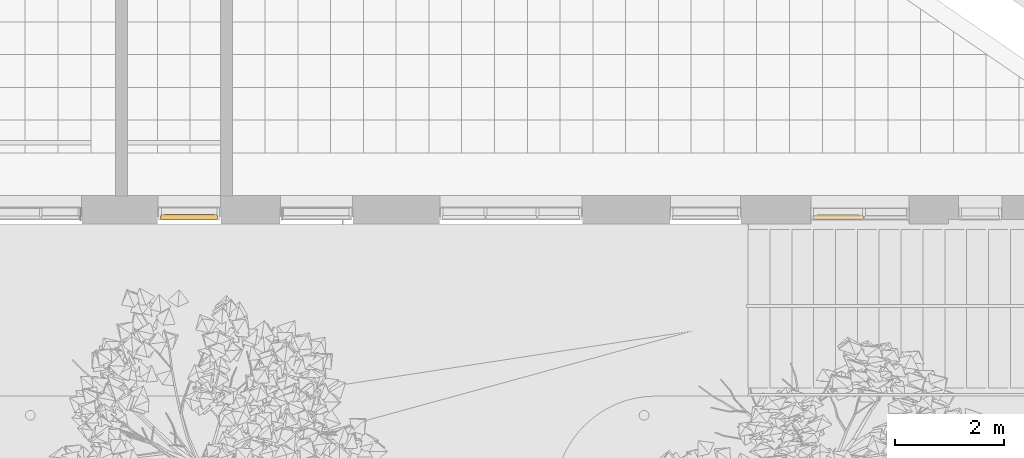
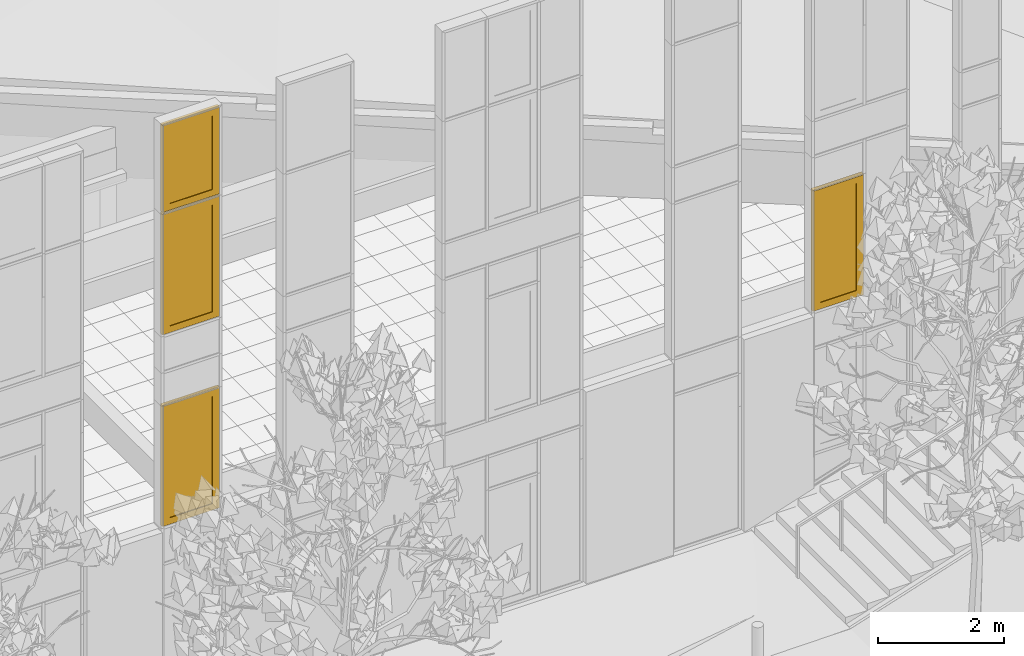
# One storey, part 166 of 246: 4 windows, 2 elements without a shape of their own.
"""IFC2X3 building model written with IfcOpenShell, lengths in millimetres."""

from ifc_helpers import new_model, entity, si_unit, converted_unit, derived_unit, money_unit, direction, frame, origin_with_axes, place, context, subcontext, project, spatial, open_shell, faceted_brep, surface_model, material, material_list, type_object, element, aggregate, save


model = new_model("IFC2X3")

# Units and contexts
model_context = context("Model", 3, precision=0.01, world=origin_with_axes(), true_north=direction((0.0, 1.0)))
body_context = subcontext(model_context, "Body", "Model", "MODEL_VIEW")
ifc_project = project(units=[si_unit("LENGTHUNIT", "METRE", prefix="MILLI"), si_unit("AREAUNIT", "SQUARE_METRE"), si_unit("VOLUMEUNIT", "CUBIC_METRE"), converted_unit("PLANEANGLEUNIT", "DEGREE", entity("IfcPlaneAngleMeasure", 0.0174532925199), si_unit("PLANEANGLEUNIT", "RADIAN"), dimensions=[0, 0, 0, 0, 0, 0, 0]), si_unit("SOLIDANGLEUNIT", "STERADIAN"), money_unit("EUR"), converted_unit("TIMEUNIT", "Year", entity("IfcTimeMeasure", 31556926.0), si_unit("TIMEUNIT", "SECOND"), dimensions=[0, 0, 1, 0, 0, 0, 0]), si_unit("MASSUNIT", "GRAM", prefix="KILO"), si_unit("THERMODYNAMICTEMPERATUREUNIT", "DEGREE_CELSIUS"), si_unit("LUMINOUSINTENSITYUNIT", "LUMEN"), si_unit("ENERGYUNIT", "JOULE", prefix="MEGA"), derived_unit("THERMALCONDUCTANCEUNIT", [(si_unit("POWERUNIT", "WATT"), 1), (si_unit("LENGTHUNIT", "METRE"), -1), (si_unit("THERMODYNAMICTEMPERATUREUNIT", "KELVIN"), -1)]), derived_unit("SPECIFICHEATCAPACITYUNIT", [(si_unit("ENERGYUNIT", "JOULE"), 1), (si_unit("MASSUNIT", "GRAM", prefix="KILO"), -1), (si_unit("THERMODYNAMICTEMPERATUREUNIT", "KELVIN"), -1)]), derived_unit("MASSDENSITYUNIT", [(si_unit("MASSUNIT", "GRAM", prefix="KILO"), 1), (si_unit("VOLUMEUNIT", "CUBIC_METRE"), -1)])], contexts=[model_context])

# Site, building, storey
site_placement = place(None, origin_with_axes())
site = spatial("IfcSite", under=ifc_project, at=site_placement, Name="L.Koidula tn 11b", CompositionType="ELEMENT")
building_placement = place(site_placement, origin_with_axes())
building = spatial("IfcBuilding", under=site, at=building_placement, Name="Rakvere Riigigümnaasium", CompositionType="ELEMENT")
storey_placement = place(building_placement, origin_with_axes())
storey = spatial("IfcBuildingStorey", under=building, at=storey_placement, Name="1.korrus 0,00", CompositionType="ELEMENT", Elevation=0.0)

# Curtain wall, windows
curtain_wall_type = type_object("IfcCurtainWallType", Name="Curtain Wall Type", PredefinedType="NOTDEFINED")
curtain_wall_1_placement = place(storey_placement, frame((84320.1847914, 5111.45334637, -1.61944635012e-05), z_axis=(0.0, 0.0, 1.0), x_axis=(1.0, 0.0, 0.0)))
curtain_wall_1 = element("IfcCurtainWall", 1, at=curtain_wall_1_placement, inside=storey, type_object=curtain_wall_type, Name="KLF-05-1C")
ifc_material_1 = material(Name="Alumiiniumprofiil (RAL 7021)")
ifc_material_2 = material(Name="Klaaspakett 3x ribikardinatega")
ifc_material_list = material_list([ifc_material_1, ifc_material_2])
window_style_1 = type_object("IfcWindowStyle", Name="1046 x 2351 x 54", ConstructionType="NOTDEFINED", OperationType="NOTDEFINED", ParameterTakesPrecedence=False, Sizeable=False)
window_1_placement = place(curtain_wall_1_placement, frame((0.0, 0.0, 4932.5), z_axis=(0.0, 0.0, 1.0), x_axis=(-1.0, 0.0, 0.0)))
window_1 = element("IfcWindow", 2, at=window_1_placement, type_object=window_style_1, material=ifc_material_list, Name="KLF-05-A-1", ObjectType="WINDOW", context=body_context, shape_type="SurfaceModel", body=[
    surface_model("IfcShellBasedSurfaceModel", [(510.000152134, 38.0, -1162.5000149), (451.000152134, 38.0, -1103.5000149), (-451.000145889, 38.0, -1103.5000149), (-510.000145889, 38.0, -1162.5000149)], [open_shell([[[0, 1, 2, 3]]])]),
    surface_model("IfcShellBasedSurfaceModel", [(-510.000145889, 38.0, -1162.5000149), (-451.000145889, 38.0, -1103.5000149), (-451.000145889, 38.0, 1103.5000149), (-510.000145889, 38.0, 1162.5000149)], [open_shell([[[0, 1, 2, 3]]])]),
    surface_model("IfcShellBasedSurfaceModel", [(510.000152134, 38.0, 1162.5000149), (-510.000145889, 38.0, 1162.5000149), (-451.000145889, 38.0, 1103.5000149), (451.000152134, 38.0, 1103.5000149)], [open_shell([[[0, 1, 2, 3]]])]),
    surface_model("IfcShellBasedSurfaceModel", [(510.000152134, 38.0, -1162.5000149), (510.000152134, 38.0, 1162.5000149), (451.000152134, 38.0, 1103.5000149), (451.000152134, 38.0, -1103.5000149)], [open_shell([[[0, 1, 2, 3]]])]),
    faceted_brep([(510.000152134, -51.0, -1162.5000149), (-510.000145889, -51.0, -1162.5000149), (-510.000145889, 38.0, -1162.5000149), (510.000152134, 38.0, -1162.5000149), (451.000152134, -51.0, -1103.5000149), (-451.000145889, -51.0, -1103.5000149), (-451.000145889, 38.0, -1103.5000149), (451.000152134, 38.0, -1103.5000149)], [[[0, 1, 2, 3]], [[0, 4, 5, 1]], [[1, 5, 6, 2]], [[3, 2, 6, 7]], [[4, 0, 3, 7]], [[5, 4, 7, 6]]]),
    faceted_brep([(-510.000145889, -51.0, -1162.5000149), (-510.000145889, -51.0, 1162.5000149), (-510.000145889, 38.0, 1162.5000149), (-510.000145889, 38.0, -1162.5000149), (-451.000145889, -51.0, -1103.5000149), (-451.000145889, -51.0, 1103.5000149), (-451.000145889, 38.0, 1103.5000149), (-451.000145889, 38.0, -1103.5000149)], [[[0, 1, 2, 3]], [[0, 4, 5, 1]], [[1, 5, 6, 2]], [[3, 2, 6, 7]], [[4, 0, 3, 7]], [[5, 4, 7, 6]]]),
    faceted_brep([(510.000152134, -51.0, 1162.5000149), (451.000152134, -51.0, 1103.5000149), (451.000152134, 38.0, 1103.5000149), (510.000152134, 38.0, 1162.5000149), (-510.000145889, -51.0, 1162.5000149), (-451.000145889, -51.0, 1103.5000149), (-451.000145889, 38.0, 1103.5000149), (-510.000145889, 38.0, 1162.5000149)], [[[0, 1, 2, 3]], [[0, 4, 5, 1]], [[1, 5, 6, 2]], [[3, 2, 6, 7]], [[4, 0, 3, 7]], [[5, 4, 7, 6]]]),
    faceted_brep([(510.000152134, -51.0, -1162.5000149), (451.000152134, -51.0, -1103.5000149), (451.000152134, 38.0, -1103.5000149), (510.000152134, 38.0, -1162.5000149), (510.000152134, -51.0, 1162.5000149), (451.000152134, -51.0, 1103.5000149), (451.000152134, 38.0, 1103.5000149), (510.000152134, 38.0, 1162.5000149)], [[[0, 1, 2, 3]], [[0, 4, 5, 1]], [[1, 5, 6, 2]], [[3, 2, 6, 7]], [[4, 0, 3, 7]], [[5, 4, 7, 6]]]),
    faceted_brep([(523.000174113, -27.0, -1175.50000149), (-523.000167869, -27.0, -1175.50000149), (-523.000167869, 27.0, -1175.50000149), (523.000174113, 27.0, -1175.50000149), (510.000152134, -27.0, -1162.5000149), (-510.000145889, -27.0, -1162.5000149), (-510.000145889, 27.0, -1162.5000149), (510.000152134, 27.0, -1162.5000149)], [[[0, 1, 2, 3]], [[0, 4, 5, 1]], [[1, 5, 6, 2]], [[3, 2, 6, 7]], [[4, 0, 3, 7]], [[5, 4, 7, 6]]]),
    faceted_brep([(-523.000167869, -27.0, -1175.50000149), (-523.000167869, -27.0, 1175.50000149), (-523.000167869, 27.0, 1175.50000149), (-523.000167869, 27.0, -1175.50000149), (-510.000145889, -27.0, -1162.5000149), (-510.000145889, -27.0, 1162.5000149), (-510.000145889, 27.0, 1162.5000149), (-510.000145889, 27.0, -1162.5000149)], [[[0, 1, 2, 3]], [[0, 4, 5, 1]], [[1, 5, 6, 2]], [[3, 2, 6, 7]], [[4, 0, 3, 7]], [[5, 4, 7, 6]]]),
    faceted_brep([(-523.000167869, -27.0, 1175.50000149), (523.000174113, -27.0, 1175.50000149), (523.000174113, 27.0, 1175.50000149), (-523.000167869, 27.0, 1175.50000149), (-510.000145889, -27.0, 1162.5000149), (510.000152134, -27.0, 1162.5000149), (510.000152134, 27.0, 1162.5000149), (-510.000145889, 27.0, 1162.5000149)], [[[0, 1, 2, 3]], [[0, 4, 5, 1]], [[1, 5, 6, 2]], [[3, 2, 6, 7]], [[4, 0, 3, 7]], [[5, 4, 7, 6]]]),
    faceted_brep([(523.000174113, -27.0, 1175.50000149), (523.000174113, -27.0, -1175.50000149), (523.000174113, 27.0, -1175.50000149), (523.000174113, 27.0, 1175.50000149), (510.000152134, -27.0, 1162.5000149), (510.000152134, -27.0, -1162.5000149), (510.000152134, 27.0, -1162.5000149), (510.000152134, 27.0, 1162.5000149)], [[[0, 1, 2, 3]], [[0, 4, 5, 1]], [[1, 5, 6, 2]], [[3, 2, 6, 7]], [[4, 0, 3, 7]], [[5, 4, 7, 6]]]),
    faceted_brep([(388.000152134, 38.0, -1040.5000149), (388.000152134, -62.0, -1040.5000149), (388.000152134, -62.0, 1040.5000149), (388.000152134, 38.0, 1040.5000149), (451.000152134, 38.0, -1103.5000149), (451.000152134, -62.0, -1103.5000149), (451.000152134, -62.0, 1103.5000149), (451.000152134, 38.0, 1103.5000149)], [[[0, 1, 2, 3]], [[4, 5, 1, 0]], [[1, 5, 6, 2]], [[3, 2, 6, 7]], [[0, 3, 7, 4]], [[7, 6, 5, 4]]]),
    faceted_brep([(-451.000145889, 38.0, -1103.5000149), (-451.000145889, -62.0, -1103.5000149), (-451.000145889, -62.0, 1103.5000149), (-451.000145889, 38.0, 1103.5000149), (-388.000145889, 38.0, -1040.5000149), (-388.000145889, -62.0, -1040.5000149), (-388.000145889, -62.0, 1040.5000149), (-388.000145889, 38.0, 1040.5000149)], [[[0, 1, 2, 3]], [[4, 5, 1, 0]], [[1, 5, 6, 2]], [[3, 2, 6, 7]], [[0, 3, 7, 4]], [[7, 6, 5, 4]]]),
    faceted_brep([(-451.000145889, 38.0, -1103.5000149), (-451.000145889, -62.0, -1103.5000149), (-388.000145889, -62.0, -1040.5000149), (-388.000145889, 38.0, -1040.5000149), (451.000152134, 38.0, -1103.5000149), (451.000152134, -62.0, -1103.5000149), (388.000152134, -62.0, -1040.5000149), (388.000152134, 38.0, -1040.5000149)], [[[0, 1, 2, 3]], [[4, 5, 1, 0]], [[1, 5, 6, 2]], [[3, 2, 6, 7]], [[0, 3, 7, 4]], [[7, 6, 5, 4]]]),
    faceted_brep([(451.000152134, 38.0, 1103.5000149), (451.000152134, -62.0, 1103.5000149), (388.000152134, -62.0, 1040.5000149), (388.000152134, 38.0, 1040.5000149), (-451.000145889, 38.0, 1103.5000149), (-451.000145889, -62.0, 1103.5000149), (-388.000145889, -62.0, 1040.5000149), (-388.000145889, 38.0, 1040.5000149)], [[[0, 1, 2, 3]], [[4, 5, 1, 0]], [[1, 5, 6, 2]], [[3, 2, 6, 7]], [[0, 3, 7, 4]], [[7, 6, 5, 4]]]),
    faceted_brep([(388.000152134, 27.0, -1040.5000149), (388.000152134, -38.0, -1040.5000149), (-388.000145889, -38.0, -1040.5000149), (-388.000145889, 27.0, -1040.5000149), (388.000152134, 27.0, 1040.5000149), (388.000152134, -38.0, 1040.5000149), (-388.000145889, -38.0, 1040.5000149), (-388.000145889, 27.0, 1040.5000149)], [[[0, 1, 2, 3]], [[4, 5, 1, 0]], [[1, 5, 6, 2]], [[3, 2, 6, 7]], [[0, 3, 7, 4]], [[7, 6, 5, 4]]]),
])
window_2_placement = place(curtain_wall_1_placement, frame((2.09960688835e-05, 0.0, 8652.5), z_axis=(0.0, 0.0, 1.0), x_axis=(-1.0, 0.0, 0.0)))
window_2 = element("IfcWindow", 3, at=window_2_placement, type_object=window_style_1, material=ifc_material_list, Name="KLF-05-A-1", ObjectType="WINDOW", context=body_context, shape_type="SurfaceModel", body=[
    surface_model("IfcShellBasedSurfaceModel", [(510.00017313, 38.0, -1162.5000149), (451.00017313, 38.0, -1103.5000149), (-451.000231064, 38.0, -1103.5000149), (-510.000231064, 38.0, -1162.5000149)], [open_shell([[[0, 1, 2, 3]]])]),
    surface_model("IfcShellBasedSurfaceModel", [(-510.000231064, 38.0, -1162.5000149), (-451.000231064, 38.0, -1103.5000149), (-451.000231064, 38.0, 1103.5000149), (-510.000231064, 38.0, 1162.5000149)], [open_shell([[[0, 1, 2, 3]]])]),
    surface_model("IfcShellBasedSurfaceModel", [(510.00017313, 38.0, 1162.5000149), (-510.000231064, 38.0, 1162.5000149), (-451.000231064, 38.0, 1103.5000149), (451.00017313, 38.0, 1103.5000149)], [open_shell([[[0, 1, 2, 3]]])]),
    surface_model("IfcShellBasedSurfaceModel", [(510.00017313, 38.0, -1162.5000149), (510.00017313, 38.0, 1162.5000149), (451.00017313, 38.0, 1103.5000149), (451.00017313, 38.0, -1103.5000149)], [open_shell([[[0, 1, 2, 3]]])]),
    faceted_brep([(510.00017313, -51.0, -1162.5000149), (-510.000231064, -51.0, -1162.5000149), (-510.000231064, 38.0, -1162.5000149), (510.00017313, 38.0, -1162.5000149), (451.00017313, -51.0, -1103.5000149), (-451.000231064, -51.0, -1103.5000149), (-451.000231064, 38.0, -1103.5000149), (451.00017313, 38.0, -1103.5000149)], [[[0, 1, 2, 3]], [[0, 4, 5, 1]], [[1, 5, 6, 2]], [[3, 2, 6, 7]], [[4, 0, 3, 7]], [[5, 4, 7, 6]]]),
    faceted_brep([(-510.000231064, -51.0, -1162.5000149), (-510.000231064, -51.0, 1162.5000149), (-510.000231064, 38.0, 1162.5000149), (-510.000231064, 38.0, -1162.5000149), (-451.000231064, -51.0, -1103.5000149), (-451.000231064, -51.0, 1103.5000149), (-451.000231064, 38.0, 1103.5000149), (-451.000231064, 38.0, -1103.5000149)], [[[0, 1, 2, 3]], [[0, 4, 5, 1]], [[1, 5, 6, 2]], [[3, 2, 6, 7]], [[4, 0, 3, 7]], [[5, 4, 7, 6]]]),
    faceted_brep([(510.00017313, -51.0, 1162.5000149), (451.00017313, -51.0, 1103.5000149), (451.00017313, 38.0, 1103.5000149), (510.00017313, 38.0, 1162.5000149), (-510.000231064, -51.0, 1162.5000149), (-451.000231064, -51.0, 1103.5000149), (-451.000231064, 38.0, 1103.5000149), (-510.000231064, 38.0, 1162.5000149)], [[[0, 1, 2, 3]], [[0, 4, 5, 1]], [[1, 5, 6, 2]], [[3, 2, 6, 7]], [[4, 0, 3, 7]], [[5, 4, 7, 6]]]),
    faceted_brep([(510.00017313, -51.0, -1162.5000149), (451.00017313, -51.0, -1103.5000149), (451.00017313, 38.0, -1103.5000149), (510.00017313, 38.0, -1162.5000149), (510.00017313, -51.0, 1162.5000149), (451.00017313, -51.0, 1103.5000149), (451.00017313, 38.0, 1103.5000149), (510.00017313, 38.0, 1162.5000149)], [[[0, 1, 2, 3]], [[0, 4, 5, 1]], [[1, 5, 6, 2]], [[3, 2, 6, 7]], [[4, 0, 3, 7]], [[5, 4, 7, 6]]]),
    faceted_brep([(523.000195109, -27.0, -1175.50000149), (-523.000217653, -27.0, -1175.50000149), (-523.000217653, 27.0, -1175.50000149), (523.000195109, 27.0, -1175.50000149), (510.00017313, -27.0, -1162.5000149), (-510.000231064, -27.0, -1162.5000149), (-510.000231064, 27.0, -1162.5000149), (510.00017313, 27.0, -1162.5000149)], [[[0, 1, 2, 3]], [[0, 4, 5, 1]], [[1, 5, 6, 2]], [[3, 2, 6, 7]], [[4, 0, 3, 7]], [[5, 4, 7, 6]]]),
    faceted_brep([(-523.000217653, -27.0, -1175.50000149), (-523.000217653, -27.0, 1175.50000149), (-523.000217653, 27.0, 1175.50000149), (-523.000217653, 27.0, -1175.50000149), (-510.000231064, -27.0, -1162.5000149), (-510.000231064, -27.0, 1162.5000149), (-510.000231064, 27.0, 1162.5000149), (-510.000231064, 27.0, -1162.5000149)], [[[0, 1, 2, 3]], [[0, 4, 5, 1]], [[1, 5, 6, 2]], [[3, 2, 6, 7]], [[4, 0, 3, 7]], [[5, 4, 7, 6]]]),
    faceted_brep([(-523.000217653, -27.0, 1175.50000149), (523.000195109, -27.0, 1175.50000149), (523.000195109, 27.0, 1175.50000149), (-523.000217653, 27.0, 1175.50000149), (-510.000231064, -27.0, 1162.5000149), (510.00017313, -27.0, 1162.5000149), (510.00017313, 27.0, 1162.5000149), (-510.000231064, 27.0, 1162.5000149)], [[[0, 1, 2, 3]], [[0, 4, 5, 1]], [[1, 5, 6, 2]], [[3, 2, 6, 7]], [[4, 0, 3, 7]], [[5, 4, 7, 6]]]),
    faceted_brep([(523.000195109, -27.0, 1175.50000149), (523.000195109, -27.0, -1175.50000149), (523.000195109, 27.0, -1175.50000149), (523.000195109, 27.0, 1175.50000149), (510.00017313, -27.0, 1162.5000149), (510.00017313, -27.0, -1162.5000149), (510.00017313, 27.0, -1162.5000149), (510.00017313, 27.0, 1162.5000149)], [[[0, 1, 2, 3]], [[0, 4, 5, 1]], [[1, 5, 6, 2]], [[3, 2, 6, 7]], [[4, 0, 3, 7]], [[5, 4, 7, 6]]]),
    faceted_brep([(388.00017313, 38.0, -1040.5000149), (388.00017313, -62.0, -1040.5000149), (388.00017313, -62.0, 1040.5000149), (388.00017313, 38.0, 1040.5000149), (451.00017313, 38.0, -1103.5000149), (451.00017313, -62.0, -1103.5000149), (451.00017313, -62.0, 1103.5000149), (451.00017313, 38.0, 1103.5000149)], [[[0, 1, 2, 3]], [[4, 5, 1, 0]], [[1, 5, 6, 2]], [[3, 2, 6, 7]], [[0, 3, 7, 4]], [[7, 6, 5, 4]]]),
    faceted_brep([(-451.000231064, 38.0, -1103.5000149), (-451.000231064, -62.0, -1103.5000149), (-451.000231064, -62.0, 1103.5000149), (-451.000231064, 38.0, 1103.5000149), (-388.000231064, 38.0, -1040.5000149), (-388.000231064, -62.0, -1040.5000149), (-388.000231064, -62.0, 1040.5000149), (-388.000231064, 38.0, 1040.5000149)], [[[0, 1, 2, 3]], [[4, 5, 1, 0]], [[1, 5, 6, 2]], [[3, 2, 6, 7]], [[0, 3, 7, 4]], [[7, 6, 5, 4]]]),
    faceted_brep([(-451.000231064, 38.0, -1103.5000149), (-451.000231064, -62.0, -1103.5000149), (-388.000231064, -62.0, -1040.5000149), (-388.000231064, 38.0, -1040.5000149), (451.00017313, 38.0, -1103.5000149), (451.00017313, -62.0, -1103.5000149), (388.00017313, -62.0, -1040.5000149), (388.00017313, 38.0, -1040.5000149)], [[[0, 1, 2, 3]], [[4, 5, 1, 0]], [[1, 5, 6, 2]], [[3, 2, 6, 7]], [[0, 3, 7, 4]], [[7, 6, 5, 4]]]),
    faceted_brep([(451.00017313, 38.0, 1103.5000149), (451.00017313, -62.0, 1103.5000149), (388.00017313, -62.0, 1040.5000149), (388.00017313, 38.0, 1040.5000149), (-451.000231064, 38.0, 1103.5000149), (-451.000231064, -62.0, 1103.5000149), (-388.000231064, -62.0, 1040.5000149), (-388.000231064, 38.0, 1040.5000149)], [[[0, 1, 2, 3]], [[4, 5, 1, 0]], [[1, 5, 6, 2]], [[3, 2, 6, 7]], [[0, 3, 7, 4]], [[7, 6, 5, 4]]]),
    faceted_brep([(388.00017313, 27.0, -1040.5000149), (388.00017313, -38.0, -1040.5000149), (-388.000231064, -38.0, -1040.5000149), (-388.000231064, 27.0, -1040.5000149), (388.00017313, 27.0, 1040.5000149), (388.00017313, -38.0, 1040.5000149), (-388.000231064, -38.0, 1040.5000149), (-388.000231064, 27.0, 1040.5000149)], [[[0, 1, 2, 3]], [[4, 5, 1, 0]], [[1, 5, 6, 2]], [[3, 2, 6, 7]], [[0, 3, 7, 4]], [[7, 6, 5, 4]]]),
])

# Curtain wall, window
curtain_wall_2_placement = place(storey_placement, frame((96030.936158, 5111.45334637, 394.620798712), z_axis=(0.0, 0.0, 1.0), x_axis=(1.0, 0.0, 0.0)))
curtain_wall_2 = element("IfcCurtainWall", 4, at=curtain_wall_2_placement, inside=storey, type_object=curtain_wall_type, Name="KLF-05-2C")
window_style_2 = type_object("IfcWindowStyle", Name="926 x 2351 x 65", ConstructionType="NOTDEFINED", OperationType="NOTDEFINED", ParameterTakesPrecedence=False, Sizeable=False)
window_3_placement = place(curtain_wall_2_placement, frame((0.0, 0.0, 4537.87919319), z_axis=(0.0, 0.0, 1.0), x_axis=(-1.0, 0.0, 0.0)))
window_3 = element("IfcWindow", 5, at=window_3_placement, type_object=window_style_2, material=ifc_material_list, Name="KLF-05-A-2", ObjectType="WINDOW", context=body_context, shape_type="SurfaceModel", body=[
    surface_model("IfcShellBasedSurfaceModel", [(280.936033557, 43.5, -1162.5000149), (221.936033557, 43.5, -1103.5000149), (-560.063960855, 43.5, -1103.5000149), (-619.063960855, 43.5, -1162.5000149)], [open_shell([[[0, 1, 2, 3]]])]),
    surface_model("IfcShellBasedSurfaceModel", [(-619.063960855, 43.5, -1162.5000149), (-560.063960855, 43.5, -1103.5000149), (-560.063960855, 43.5, 1103.5000149), (-619.063960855, 43.5, 1162.5000149)], [open_shell([[[0, 1, 2, 3]]])]),
    surface_model("IfcShellBasedSurfaceModel", [(280.936033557, 43.5, 1162.5000149), (-619.063960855, 43.5, 1162.5000149), (-560.063960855, 43.5, 1103.5000149), (221.936033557, 43.5, 1103.5000149)], [open_shell([[[0, 1, 2, 3]]])]),
    surface_model("IfcShellBasedSurfaceModel", [(280.936033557, 43.5, -1162.5000149), (280.936033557, 43.5, 1162.5000149), (221.936033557, 43.5, 1103.5000149), (221.936033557, 43.5, -1103.5000149)], [open_shell([[[0, 1, 2, 3]]])]),
    faceted_brep([(280.936033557, -45.5, -1162.5000149), (-619.063960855, -45.5, -1162.5000149), (-619.063960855, 43.5, -1162.5000149), (280.936033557, 43.5, -1162.5000149), (221.936033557, -45.5, -1103.5000149), (-560.063960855, -45.5, -1103.5000149), (-560.063960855, 43.5, -1103.5000149), (221.936033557, 43.5, -1103.5000149)], [[[0, 1, 2, 3]], [[0, 4, 5, 1]], [[1, 5, 6, 2]], [[3, 2, 6, 7]], [[4, 0, 3, 7]], [[5, 4, 7, 6]]]),
    faceted_brep([(-619.063960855, -45.5, -1162.5000149), (-619.063960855, -45.5, 1162.5000149), (-619.063960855, 43.5, 1162.5000149), (-619.063960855, 43.5, -1162.5000149), (-560.063960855, -45.5, -1103.5000149), (-560.063960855, -45.5, 1103.5000149), (-560.063960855, 43.5, 1103.5000149), (-560.063960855, 43.5, -1103.5000149)], [[[0, 1, 2, 3]], [[0, 4, 5, 1]], [[1, 5, 6, 2]], [[3, 2, 6, 7]], [[4, 0, 3, 7]], [[5, 4, 7, 6]]]),
    faceted_brep([(280.936033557, -45.5, 1162.5000149), (221.936033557, -45.5, 1103.5000149), (221.936033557, 43.5, 1103.5000149), (280.936033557, 43.5, 1162.5000149), (-619.063960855, -45.5, 1162.5000149), (-560.063960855, -45.5, 1103.5000149), (-560.063960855, 43.5, 1103.5000149), (-619.063960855, 43.5, 1162.5000149)], [[[0, 1, 2, 3]], [[0, 4, 5, 1]], [[1, 5, 6, 2]], [[3, 2, 6, 7]], [[4, 0, 3, 7]], [[5, 4, 7, 6]]]),
    faceted_brep([(280.936033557, -45.5, -1162.5000149), (221.936033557, -45.5, -1103.5000149), (221.936033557, 43.5, -1103.5000149), (280.936033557, 43.5, -1162.5000149), (280.936033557, -45.5, 1162.5000149), (221.936033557, -45.5, 1103.5000149), (221.936033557, 43.5, 1103.5000149), (280.936033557, 43.5, 1162.5000149)], [[[0, 1, 2, 3]], [[0, 4, 5, 1]], [[1, 5, 6, 2]], [[3, 2, 6, 7]], [[4, 0, 3, 7]], [[5, 4, 7, 6]]]),
    faceted_brep([(293.936055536, -32.5, -1175.50000149), (-632.063947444, -32.5, -1175.50000149), (-632.063947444, 32.5, -1175.50000149), (293.936055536, 32.5, -1175.50000149), (280.936033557, -32.5, -1162.5000149), (-619.063960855, -32.5, -1162.5000149), (-619.063960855, 32.5, -1162.5000149), (280.936033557, 32.5, -1162.5000149)], [[[0, 1, 2, 3]], [[0, 4, 5, 1]], [[1, 5, 6, 2]], [[3, 2, 6, 7]], [[4, 0, 3, 7]], [[5, 4, 7, 6]]]),
    faceted_brep([(-632.063947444, -32.5, -1175.50000149), (-632.063947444, -32.5, 1175.50000149), (-632.063947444, 32.5, 1175.50000149), (-632.063947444, 32.5, -1175.50000149), (-619.063960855, -32.5, -1162.5000149), (-619.063960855, -32.5, 1162.5000149), (-619.063960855, 32.5, 1162.5000149), (-619.063960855, 32.5, -1162.5000149)], [[[0, 1, 2, 3]], [[0, 4, 5, 1]], [[1, 5, 6, 2]], [[3, 2, 6, 7]], [[4, 0, 3, 7]], [[5, 4, 7, 6]]]),
    faceted_brep([(-632.063947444, -32.5, 1175.50000149), (293.936055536, -32.5, 1175.50000149), (293.936055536, 32.5, 1175.50000149), (-632.063947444, 32.5, 1175.50000149), (-619.063960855, -32.5, 1162.5000149), (280.936033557, -32.5, 1162.5000149), (280.936033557, 32.5, 1162.5000149), (-619.063960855, 32.5, 1162.5000149)], [[[0, 1, 2, 3]], [[0, 4, 5, 1]], [[1, 5, 6, 2]], [[3, 2, 6, 7]], [[4, 0, 3, 7]], [[5, 4, 7, 6]]]),
    faceted_brep([(293.936055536, -32.5, 1175.50000149), (293.936055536, -32.5, -1175.50000149), (293.936055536, 32.5, -1175.50000149), (293.936055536, 32.5, 1175.50000149), (280.936033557, -32.5, 1162.5000149), (280.936033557, -32.5, -1162.5000149), (280.936033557, 32.5, -1162.5000149), (280.936033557, 32.5, 1162.5000149)], [[[0, 1, 2, 3]], [[0, 4, 5, 1]], [[1, 5, 6, 2]], [[3, 2, 6, 7]], [[4, 0, 3, 7]], [[5, 4, 7, 6]]]),
    faceted_brep([(158.936033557, 43.5, -1040.5000149), (158.936033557, -56.5, -1040.5000149), (158.936033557, -56.5, 1040.5000149), (158.936033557, 43.5, 1040.5000149), (221.936033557, 43.5, -1103.5000149), (221.936033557, -56.5, -1103.5000149), (221.936033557, -56.5, 1103.5000149), (221.936033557, 43.5, 1103.5000149)], [[[0, 1, 2, 3]], [[4, 5, 1, 0]], [[1, 5, 6, 2]], [[3, 2, 6, 7]], [[0, 3, 7, 4]], [[7, 6, 5, 4]]]),
    faceted_brep([(-560.063960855, 43.5, -1103.5000149), (-560.063960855, -56.5, -1103.5000149), (-560.063960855, -56.5, 1103.5000149), (-560.063960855, 43.5, 1103.5000149), (-497.063960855, 43.5, -1040.5000149), (-497.063960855, -56.5, -1040.5000149), (-497.063960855, -56.5, 1040.5000149), (-497.063960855, 43.5, 1040.5000149)], [[[0, 1, 2, 3]], [[4, 5, 1, 0]], [[1, 5, 6, 2]], [[3, 2, 6, 7]], [[0, 3, 7, 4]], [[7, 6, 5, 4]]]),
    faceted_brep([(-560.063960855, 43.5, -1103.5000149), (-560.063960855, -56.5, -1103.5000149), (-497.063960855, -56.5, -1040.5000149), (-497.063960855, 43.5, -1040.5000149), (221.936033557, 43.5, -1103.5000149), (221.936033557, -56.5, -1103.5000149), (158.936033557, -56.5, -1040.5000149), (158.936033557, 43.5, -1040.5000149)], [[[0, 1, 2, 3]], [[4, 5, 1, 0]], [[1, 5, 6, 2]], [[3, 2, 6, 7]], [[0, 3, 7, 4]], [[7, 6, 5, 4]]]),
    faceted_brep([(221.936033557, 43.5, 1103.5000149), (221.936033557, -56.5, 1103.5000149), (158.936033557, -56.5, 1040.5000149), (158.936033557, 43.5, 1040.5000149), (-560.063960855, 43.5, 1103.5000149), (-560.063960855, -56.5, 1103.5000149), (-497.063960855, -56.5, 1040.5000149), (-497.063960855, 43.5, 1040.5000149)], [[[0, 1, 2, 3]], [[4, 5, 1, 0]], [[1, 5, 6, 2]], [[3, 2, 6, 7]], [[0, 3, 7, 4]], [[7, 6, 5, 4]]]),
    faceted_brep([(158.936033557, 32.5, -1040.5000149), (158.936033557, -32.5, -1040.5000149), (-497.063960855, -32.5, -1040.5000149), (-497.063960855, 32.5, -1040.5000149), (158.936033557, 32.5, 1040.5000149), (158.936033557, -32.5, 1040.5000149), (-497.063960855, -32.5, 1040.5000149), (-497.063960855, 32.5, 1040.5000149)], [[[0, 1, 2, 3]], [[4, 5, 1, 0]], [[1, 5, 6, 2]], [[3, 2, 6, 7]], [[0, 3, 7, 4]], [[7, 6, 5, 4]]]),
])
aggregate(curtain_wall_2, [window_3])

# Window
window_style_3 = type_object("IfcWindowStyle", Name="1046 x 1701 x 54", ConstructionType="NOTDEFINED", OperationType="NOTDEFINED", ParameterTakesPrecedence=False, Sizeable=False)
window_4_placement = place(curtain_wall_1_placement, frame((2.07585628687e-05, 0.0, 10714.999916), z_axis=(0.0, 0.0, 1.0), x_axis=(-1.0, 0.0, 0.0)))
window_4 = element("IfcWindow", 6, at=window_4_placement, type_object=window_style_3, material=ifc_material_list, Name="KLF-05-A-3", ObjectType="WINDOW", context=body_context, shape_type="SurfaceModel", body=[
    surface_model("IfcShellBasedSurfaceModel", [(510.000275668, 38.0, -849.999922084), (451.000275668, 38.0, -790.999922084), (-451.000214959, 38.0, -790.999922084), (-510.000214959, 38.0, -849.999922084)], [open_shell([[[0, 1, 2, 3]]])]),
    surface_model("IfcShellBasedSurfaceModel", [(-510.000214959, 38.0, -849.999922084), (-451.000214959, 38.0, -790.999922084), (-451.000214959, 38.0, 765.99992821), (-510.000214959, 38.0, 824.99992821)], [open_shell([[[0, 1, 2, 3]]])]),
    surface_model("IfcShellBasedSurfaceModel", [(510.000275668, 38.0, 824.99992821), (-510.000214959, 38.0, 824.99992821), (-451.000214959, 38.0, 765.99992821), (451.000275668, 38.0, 765.99992821)], [open_shell([[[0, 1, 2, 3]]])]),
    surface_model("IfcShellBasedSurfaceModel", [(510.000275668, 38.0, -849.999922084), (510.000275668, 38.0, 824.99992821), (451.000275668, 38.0, 765.99992821), (451.000275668, 38.0, -790.999922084)], [open_shell([[[0, 1, 2, 3]]])]),
    faceted_brep([(510.000275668, -51.0, -849.999922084), (-510.000214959, -51.0, -849.999922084), (-510.000214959, 38.0, -849.999922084), (510.000275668, 38.0, -849.999922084), (451.000275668, -51.0, -790.999922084), (-451.000214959, -51.0, -790.999922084), (-451.000214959, 38.0, -790.999922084), (451.000275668, 38.0, -790.999922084)], [[[0, 1, 2, 3]], [[0, 4, 5, 1]], [[1, 5, 6, 2]], [[3, 2, 6, 7]], [[4, 0, 3, 7]], [[5, 4, 7, 6]]]),
    faceted_brep([(-510.000214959, -51.0, -849.999922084), (-510.000214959, -51.0, 824.99992821), (-510.000214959, 38.0, 824.99992821), (-510.000214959, 38.0, -849.999922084), (-451.000214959, -51.0, -790.999922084), (-451.000214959, -51.0, 765.99992821), (-451.000214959, 38.0, 765.99992821), (-451.000214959, 38.0, -790.999922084)], [[[0, 1, 2, 3]], [[0, 4, 5, 1]], [[1, 5, 6, 2]], [[3, 2, 6, 7]], [[4, 0, 3, 7]], [[5, 4, 7, 6]]]),
    faceted_brep([(510.000275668, -51.0, 824.99992821), (451.000275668, -51.0, 765.99992821), (451.000275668, 38.0, 765.99992821), (510.000275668, 38.0, 824.99992821), (-510.000214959, -51.0, 824.99992821), (-451.000214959, -51.0, 765.99992821), (-451.000214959, 38.0, 765.99992821), (-510.000214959, 38.0, 824.99992821)], [[[0, 1, 2, 3]], [[0, 4, 5, 1]], [[1, 5, 6, 2]], [[3, 2, 6, 7]], [[4, 0, 3, 7]], [[5, 4, 7, 6]]]),
    faceted_brep([(510.000275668, -51.0, -849.999922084), (451.000275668, -51.0, -790.999922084), (451.000275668, 38.0, -790.999922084), (510.000275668, 38.0, -849.999922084), (510.000275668, -51.0, 824.99992821), (451.000275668, -51.0, 765.99992821), (451.000275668, 38.0, 765.99992821), (510.000275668, 38.0, 824.99992821)], [[[0, 1, 2, 3]], [[0, 4, 5, 1]], [[1, 5, 6, 2]], [[3, 2, 6, 7]], [[4, 0, 3, 7]], [[5, 4, 7, 6]]]),
    faceted_brep([(523.000261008, -27.0, -862.999907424), (-523.000226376, -27.0, -862.999907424), (-523.000226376, 27.0, -862.999907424), (523.000261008, 27.0, -862.999907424), (510.000275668, -27.0, -849.999922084), (-510.000214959, -27.0, -849.999922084), (-510.000214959, 27.0, -849.999922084), (510.000275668, 27.0, -849.999922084)], [[[0, 1, 2, 3]], [[0, 4, 5, 1]], [[1, 5, 6, 2]], [[3, 2, 6, 7]], [[4, 0, 3, 7]], [[5, 4, 7, 6]]]),
    faceted_brep([(-523.000226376, -27.0, -862.999907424), (-523.000226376, -27.0, 837.999913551), (-523.000226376, 27.0, 837.999913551), (-523.000226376, 27.0, -862.999907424), (-510.000214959, -27.0, -849.999922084), (-510.000214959, -27.0, 824.99992821), (-510.000214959, 27.0, 824.99992821), (-510.000214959, 27.0, -849.999922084)], [[[0, 1, 2, 3]], [[0, 4, 5, 1]], [[1, 5, 6, 2]], [[3, 2, 6, 7]], [[4, 0, 3, 7]], [[5, 4, 7, 6]]]),
    faceted_brep([(-523.000226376, -27.0, 837.999913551), (523.000261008, -27.0, 837.999913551), (523.000261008, 27.0, 837.999913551), (-523.000226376, 27.0, 837.999913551), (-510.000214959, -27.0, 824.99992821), (510.000275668, -27.0, 824.99992821), (510.000275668, 27.0, 824.99992821), (-510.000214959, 27.0, 824.99992821)], [[[0, 1, 2, 3]], [[0, 4, 5, 1]], [[1, 5, 6, 2]], [[3, 2, 6, 7]], [[4, 0, 3, 7]], [[5, 4, 7, 6]]]),
    faceted_brep([(523.000261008, -27.0, 837.999913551), (523.000261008, -27.0, -862.999907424), (523.000261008, 27.0, -862.999907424), (523.000261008, 27.0, 837.999913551), (510.000275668, -27.0, 824.99992821), (510.000275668, -27.0, -849.999922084), (510.000275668, 27.0, -849.999922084), (510.000275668, 27.0, 824.99992821)], [[[0, 1, 2, 3]], [[0, 4, 5, 1]], [[1, 5, 6, 2]], [[3, 2, 6, 7]], [[4, 0, 3, 7]], [[5, 4, 7, 6]]]),
    faceted_brep([(388.000275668, 38.0, -727.999922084), (388.000275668, -62.0, -727.999922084), (388.000275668, -62.0, 702.99992821), (388.000275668, 38.0, 702.99992821), (451.000275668, 38.0, -790.999922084), (451.000275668, -62.0, -790.999922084), (451.000275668, -62.0, 765.99992821), (451.000275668, 38.0, 765.99992821)], [[[0, 1, 2, 3]], [[4, 5, 1, 0]], [[1, 5, 6, 2]], [[3, 2, 6, 7]], [[0, 3, 7, 4]], [[7, 6, 5, 4]]]),
    faceted_brep([(-451.000214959, 38.0, -790.999922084), (-451.000214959, -62.0, -790.999922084), (-451.000214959, -62.0, 765.99992821), (-451.000214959, 38.0, 765.99992821), (-388.000214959, 38.0, -727.999922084), (-388.000214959, -62.0, -727.999922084), (-388.000214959, -62.0, 702.99992821), (-388.000214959, 38.0, 702.99992821)], [[[0, 1, 2, 3]], [[4, 5, 1, 0]], [[1, 5, 6, 2]], [[3, 2, 6, 7]], [[0, 3, 7, 4]], [[7, 6, 5, 4]]]),
    faceted_brep([(-451.000214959, 38.0, -790.999922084), (-451.000214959, -62.0, -790.999922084), (-388.000214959, -62.0, -727.999922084), (-388.000214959, 38.0, -727.999922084), (451.000275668, 38.0, -790.999922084), (451.000275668, -62.0, -790.999922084), (388.000275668, -62.0, -727.999922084), (388.000275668, 38.0, -727.999922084)], [[[0, 1, 2, 3]], [[4, 5, 1, 0]], [[1, 5, 6, 2]], [[3, 2, 6, 7]], [[0, 3, 7, 4]], [[7, 6, 5, 4]]]),
    faceted_brep([(451.000275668, 38.0, 765.99992821), (451.000275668, -62.0, 765.99992821), (388.000275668, -62.0, 702.99992821), (388.000275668, 38.0, 702.99992821), (-451.000214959, 38.0, 765.99992821), (-451.000214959, -62.0, 765.99992821), (-388.000214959, -62.0, 702.99992821), (-388.000214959, 38.0, 702.99992821)], [[[0, 1, 2, 3]], [[4, 5, 1, 0]], [[1, 5, 6, 2]], [[3, 2, 6, 7]], [[0, 3, 7, 4]], [[7, 6, 5, 4]]]),
    faceted_brep([(388.000275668, 27.0, -727.999922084), (388.000275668, -38.0, -727.999922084), (-388.000214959, -38.0, -727.999922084), (-388.000214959, 27.0, -727.999922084), (388.000275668, 27.0, 702.99992821), (388.000275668, -38.0, 702.99992821), (-388.000214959, -38.0, 702.99992821), (-388.000214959, 27.0, 702.99992821)], [[[0, 1, 2, 3]], [[4, 5, 1, 0]], [[1, 5, 6, 2]], [[3, 2, 6, 7]], [[0, 3, 7, 4]], [[7, 6, 5, 4]]]),
])

aggregate(curtain_wall_1, [window_1, window_4, window_2])

save(model, "model.ifc")
